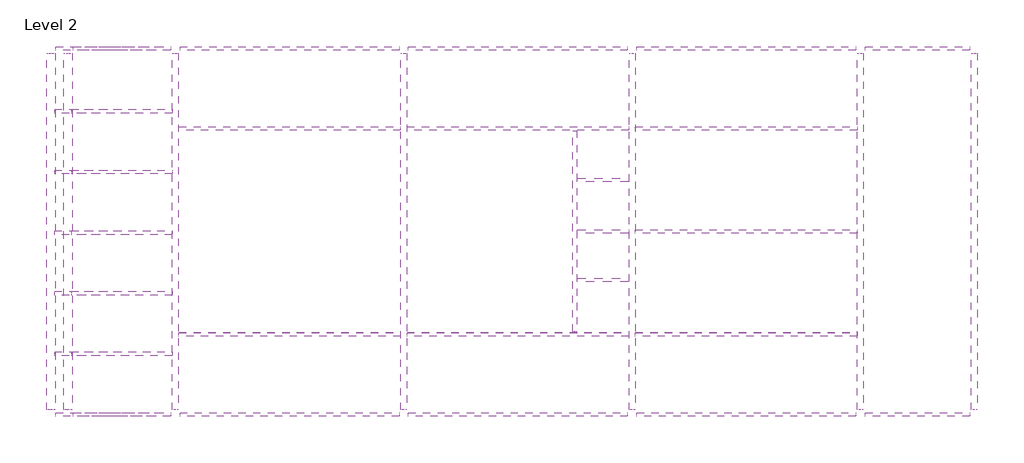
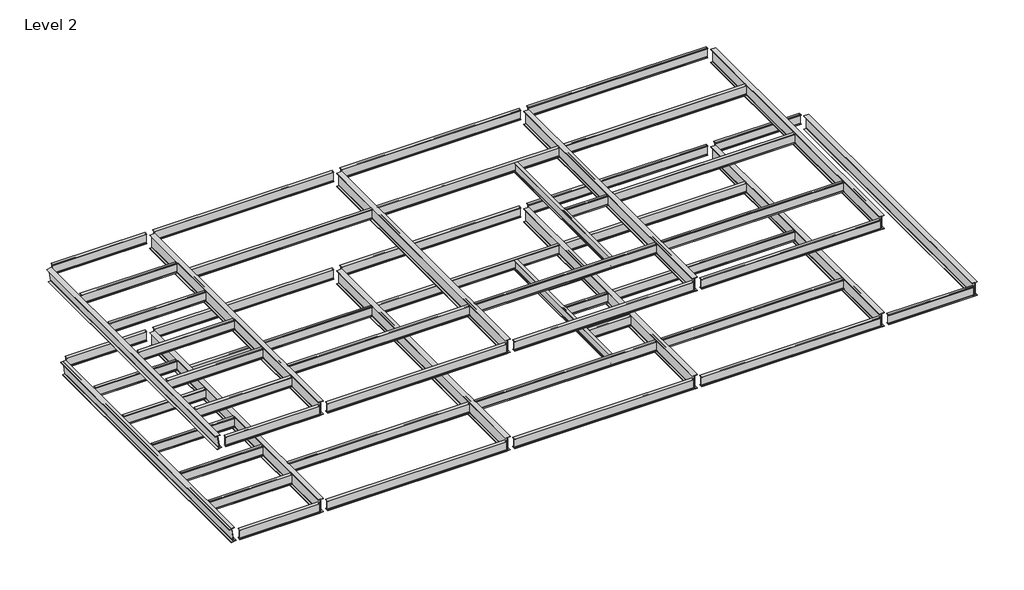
# One storey: 59 beams.
"""IFC4 building model written with IfcOpenShell, lengths in millimetres."""

from ifc_helpers import new_model, si_unit, origin, place, context, project, spatial, transform, mapped, element, save
from components import w_shapes_w21x57_78d4a217, w_shapes_w21x57_31511be1, w_shapes_w21x57_3eaecdaa, w_shapes_w21x57_65fae525, w_shapes_w21x57_e88e118e, w_shapes_w21x57_af6b2263, w_shapes_w21x57_8ccef679, w_shapes_w21x57_f1182905, w_shapes_w21x57_da67b83a, w_shapes_w21x57_1251f8e0, w_shapes_w21x57_95897375, w_shapes_w21x57_72440131, w_shapes_w21x57_cef2d52b, w_shapes_w30x124_fc9c46ff, w_shapes_w30x124_addc17b6

model = new_model("IFC4")

# Units and contexts
model_context = context("Model", 3, world=origin())
ifc_project = project(units=[si_unit("LENGTHUNIT", "METRE", prefix="MILLI")], contexts=[model_context])

# Site, building, storey
site = spatial("IfcSite", under=ifc_project)
building = spatial("IfcBuilding", under=site)
storey = spatial("IfcBuildingStorey", under=building, Name="Level 2", Elevation=3000.0)

# Beams
placement = place(None, origin())
w_shapes_w21x57_shape = w_shapes_w21x57_78d4a217(model_context)
element("IfcBeam", 1, ObjectType="W Shapes : W21X57", at=placement, inside=storey, context=model_context, shape_type="MappedRepresentation", body=[
    mapped(w_shapes_w21x57_shape, transform((4197.5, -9335.0, 5232.03), x_axis=(1.0, 0.0, 0.0), y_axis=(0.0, 1.0, 0.0), z_axis=(0.0, 0.0, 1.0))),
])
element("IfcBeam", 2, ObjectType="W Shapes : W21X57", at=placement, inside=storey, context=model_context, shape_type="MappedRepresentation", body=[
    mapped(w_shapes_w21x57_shape, transform((4197.5, -6685.0, 5232.03), x_axis=(1.0, 0.0, 0.0), y_axis=(0.0, 1.0, 0.0), z_axis=(0.0, 0.0, 1.0))),
])
element("IfcBeam", 3, ObjectType="W Shapes : W21X57", at=placement, inside=storey, context=model_context, shape_type="MappedRepresentation", body=[
    mapped(w_shapes_w21x57_shape, transform((4197.5, -4035.0, 5232.03), x_axis=(1.0, 0.0, 0.0), y_axis=(0.0, 1.0, 0.0), z_axis=(0.0, 0.0, 1.0))),
])
element("IfcBeam", 4, ObjectType="W Shapes : W21X57", at=placement, inside=storey, context=model_context, shape_type="MappedRepresentation", body=[
    mapped(w_shapes_w21x57_shape, transform((4197.5, -1385.0, 5232.03), x_axis=(1.0, 0.0, 0.0), y_axis=(0.0, 1.0, 0.0), z_axis=(0.0, 0.0, 1.0))),
])
element("IfcBeam", 5, ObjectType="W Shapes : W21X57", at=placement, inside=storey, context=model_context, shape_type="MappedRepresentation", body=[
    mapped(w_shapes_w21x57_shape, transform((4197.5, -11985.0, 5232.03), x_axis=(1.0, 0.0, 0.0), y_axis=(0.0, 1.0, 0.0), z_axis=(0.0, 0.0, 1.0))),
])
w_shapes_w21x57_2_shape = w_shapes_w21x57_31511be1(model_context)
element("IfcBeam", 6, ObjectType="W Shapes : W21X57", at=placement, inside=storey, context=model_context, shape_type="MappedRepresentation", body=[
    mapped(w_shapes_w21x57_2_shape, transform((24099.4, -6572.5, 10732.03), x_axis=(0.0, -1.0, 0.0), y_axis=(1.0, 0.0, 0.0), z_axis=(0.0, 0.0, 1.0))),
])
element("IfcBeam", 7, ObjectType="W Shapes : W21X57", at=placement, inside=storey, context=model_context, shape_type="MappedRepresentation", body=[
    mapped(w_shapes_w21x57_2_shape, transform((24099.4, -6572.5, 5232.03), x_axis=(0.0, -1.0, 0.0), y_axis=(1.0, 0.0, 0.0), z_axis=(0.0, 0.0, 1.0))),
])
w_shapes_w21x57_3_shape = w_shapes_w21x57_3eaecdaa(model_context)
element("IfcBeam", 8, ObjectType="W Shapes : W21X57", at=placement, inside=storey, context=model_context, shape_type="MappedRepresentation", body=[
    mapped(w_shapes_w21x57_3_shape, transform((31590.5, -11135.0, 5232.03), x_axis=(-1.0, 0.0, 0.0), y_axis=(0.0, -1.0, 0.0), z_axis=(0.0, 0.0, 1.0))),
])
element("IfcBeam", 9, ObjectType="W Shapes : W21X57", at=placement, inside=storey, context=model_context, shape_type="MappedRepresentation", body=[
    mapped(w_shapes_w21x57_3_shape, transform((21608.3, -11135.0, 5232.03), x_axis=(-1.0, 0.0, 0.0), y_axis=(0.0, -1.0, 0.0), z_axis=(0.0, 0.0, 1.0))),
])
element("IfcBeam", 10, ObjectType="W Shapes : W21X57", at=placement, inside=storey, context=model_context, shape_type="MappedRepresentation", body=[
    mapped(w_shapes_w21x57_3_shape, transform((31590.5, -2135.0, 5232.03), x_axis=(-1.0, 0.0, 0.0), y_axis=(0.0, -1.0, 0.0), z_axis=(0.0, 0.0, 1.0))),
])
element("IfcBeam", 11, ObjectType="W Shapes : W21X57", at=placement, inside=storey, context=model_context, shape_type="MappedRepresentation", body=[
    mapped(w_shapes_w21x57_3_shape, transform((21608.3, -2135.0, 5232.03), x_axis=(-1.0, 0.0, 0.0), y_axis=(0.0, -1.0, 0.0), z_axis=(0.0, 0.0, 1.0))),
])
element("IfcBeam", 12, ObjectType="W Shapes : W21X57", at=placement, inside=storey, context=model_context, shape_type="MappedRepresentation", body=[
    mapped(w_shapes_w21x57_3_shape, transform((31590.5, -2135.0, 10732.03), x_axis=(-1.0, 0.0, 0.0), y_axis=(0.0, -1.0, 0.0), z_axis=(0.0, 0.0, 1.0))),
])
element("IfcBeam", 13, ObjectType="W Shapes : W21X57", at=placement, inside=storey, context=model_context, shape_type="MappedRepresentation", body=[
    mapped(w_shapes_w21x57_3_shape, transform((21608.3, -2135.0, 10732.03), x_axis=(-1.0, 0.0, 0.0), y_axis=(0.0, -1.0, 0.0), z_axis=(0.0, 0.0, 1.0))),
])
element("IfcBeam", 14, ObjectType="W Shapes : W21X57", at=placement, inside=storey, context=model_context, shape_type="MappedRepresentation", body=[
    mapped(w_shapes_w21x57_3_shape, transform((31590.5, -11135.0, 10732.03), x_axis=(-1.0, 0.0, 0.0), y_axis=(0.0, -1.0, 0.0), z_axis=(0.0, 0.0, 1.0))),
])
element("IfcBeam", 15, ObjectType="W Shapes : W21X57", at=placement, inside=storey, context=model_context, shape_type="MappedRepresentation", body=[
    mapped(w_shapes_w21x57_3_shape, transform((21608.3, -11135.0, 10732.03), x_axis=(-1.0, 0.0, 0.0), y_axis=(0.0, -1.0, 0.0), z_axis=(0.0, 0.0, 1.0))),
])
w_shapes_w21x57_4_shape = w_shapes_w21x57_65fae525(model_context)
element("IfcBeam", 16, ObjectType="W Shapes : W21X57", at=placement, inside=storey, context=model_context, shape_type="MappedRepresentation", body=[
    mapped(w_shapes_w21x57_4_shape, transform((25286.9, -4385.0, 5232.03), x_axis=(1.0, 0.0, 0.0), y_axis=(0.0, 1.0, 0.0), z_axis=(0.0, 0.0, 1.0))),
])
element("IfcBeam", 17, ObjectType="W Shapes : W21X57", at=placement, inside=storey, context=model_context, shape_type="MappedRepresentation", body=[
    mapped(w_shapes_w21x57_4_shape, transform((25286.9, -8760.0, 5232.03), x_axis=(1.0, 0.0, 0.0), y_axis=(0.0, 1.0, 0.0), z_axis=(0.0, 0.0, 1.0))),
])
w_shapes_w21x57_5_shape = w_shapes_w21x57_e88e118e(model_context)
element("IfcBeam", 18, ObjectType="W Shapes : W21X57", at=placement, inside=storey, context=model_context, shape_type="MappedRepresentation", body=[
    mapped(w_shapes_w21x57_5_shape, transform((3822.5, -11985.0, 10732.03), x_axis=(1.0, 0.0, 0.0), y_axis=(0.0, 1.0, 0.0), z_axis=(0.0, 0.0, 1.0))),
])
element("IfcBeam", 19, ObjectType="W Shapes : W21X57", at=placement, inside=storey, context=model_context, shape_type="MappedRepresentation", body=[
    mapped(w_shapes_w21x57_5_shape, transform((3822.5, -9335.0, 10732.03), x_axis=(1.0, 0.0, 0.0), y_axis=(0.0, 1.0, 0.0), z_axis=(0.0, 0.0, 1.0))),
])
element("IfcBeam", 20, ObjectType="W Shapes : W21X57", at=placement, inside=storey, context=model_context, shape_type="MappedRepresentation", body=[
    mapped(w_shapes_w21x57_5_shape, transform((3822.5, -6685.0, 10732.03), x_axis=(1.0, 0.0, 0.0), y_axis=(0.0, 1.0, 0.0), z_axis=(0.0, 0.0, 1.0))),
])
element("IfcBeam", 21, ObjectType="W Shapes : W21X57", at=placement, inside=storey, context=model_context, shape_type="MappedRepresentation", body=[
    mapped(w_shapes_w21x57_5_shape, transform((3822.5, -4035.0, 10732.03), x_axis=(1.0, 0.0, 0.0), y_axis=(0.0, 1.0, 0.0), z_axis=(0.0, 0.0, 1.0))),
])
element("IfcBeam", 22, ObjectType="W Shapes : W21X57", at=placement, inside=storey, context=model_context, shape_type="MappedRepresentation", body=[
    mapped(w_shapes_w21x57_5_shape, transform((3822.5, -1385.0, 10732.03), x_axis=(1.0, 0.0, 0.0), y_axis=(0.0, 1.0, 0.0), z_axis=(0.0, 0.0, 1.0))),
])
w_shapes_w21x57_6_shape = w_shapes_w21x57_af6b2263(model_context)
element("IfcBeam", 23, ObjectType="W Shapes : W21X57", at=placement, inside=storey, context=model_context, shape_type="MappedRepresentation", body=[
    mapped(w_shapes_w21x57_6_shape, transform((11688.6, -11135.0, 5232.03), x_axis=(-1.0, 0.0, 0.0), y_axis=(0.0, -1.0, 0.0), z_axis=(0.0, 0.0, 1.0))),
])
element("IfcBeam", 24, ObjectType="W Shapes : W21X57", at=placement, inside=storey, context=model_context, shape_type="MappedRepresentation", body=[
    mapped(w_shapes_w21x57_6_shape, transform((11688.6, -2135.0, 5232.03), x_axis=(-1.0, 0.0, 0.0), y_axis=(0.0, -1.0, 0.0), z_axis=(0.0, 0.0, 1.0))),
])
element("IfcBeam", 25, ObjectType="W Shapes : W21X57", at=placement, inside=storey, context=model_context, shape_type="MappedRepresentation", body=[
    mapped(w_shapes_w21x57_6_shape, transform((11688.6, -2135.0, 10732.03), x_axis=(-1.0, 0.0, 0.0), y_axis=(0.0, -1.0, 0.0), z_axis=(0.0, 0.0, 1.0))),
])
element("IfcBeam", 26, ObjectType="W Shapes : W21X57", at=placement, inside=storey, context=model_context, shape_type="MappedRepresentation", body=[
    mapped(w_shapes_w21x57_6_shape, transform((11688.6, -11135.0, 10732.03), x_axis=(-1.0, 0.0, 0.0), y_axis=(0.0, -1.0, 0.0), z_axis=(0.0, 0.0, 1.0))),
])
element("IfcBeam", 27, ObjectType="W Shapes : W21X57", at=placement, inside=storey, context=model_context, shape_type="MappedRepresentation", body=[
    mapped(w_shapes_w21x57_6_shape, transform((31528.0, -6635.0, 10732.03), x_axis=(1.0, 0.0, 0.0), y_axis=(0.0, 1.0, 0.0), z_axis=(0.0, 0.0, 1.0))),
])
element("IfcBeam", 28, ObjectType="W Shapes : W21X57", at=placement, inside=storey, context=model_context, shape_type="MappedRepresentation", body=[
    mapped(w_shapes_w21x57_6_shape, transform((31528.0, -6635.0, 5232.03), x_axis=(1.0, 0.0, 0.0), y_axis=(0.0, 1.0, 0.0), z_axis=(0.0, 0.0, 1.0))),
])
w_shapes_w21x57_7_shape = w_shapes_w21x57_8ccef679(model_context)
element("IfcBeam", 29, ObjectType="W Shapes : W21X57", at=placement, inside=storey, context=model_context, shape_type="MappedRepresentation", body=[
    mapped(w_shapes_w21x57_7_shape, transform((25349.4, -6635.0, 10732.03), x_axis=(1.0, 0.0, 0.0), y_axis=(0.0, 1.0, 0.0), z_axis=(0.0, 0.0, 1.0))),
])
element("IfcBeam", 30, ObjectType="W Shapes : W21X57", at=placement, inside=storey, context=model_context, shape_type="MappedRepresentation", body=[
    mapped(w_shapes_w21x57_7_shape, transform((25349.4, -6635.0, 5232.03), x_axis=(1.0, 0.0, 0.0), y_axis=(0.0, 1.0, 0.0), z_axis=(0.0, 0.0, 1.0))),
])
w_shapes_w21x57_8_shape = w_shapes_w21x57_f1182905(model_context)
element("IfcBeam", 31, ObjectType="W Shapes : W21X57", at=placement, inside=storey, context=model_context, shape_type="MappedRepresentation", body=[
    mapped(w_shapes_w21x57_8_shape, transform((39072.7, -14635.0, 5232.03), x_axis=(-1.0, 0.0, 0.0), y_axis=(0.0, -1.0, 0.0), z_axis=(0.0, 0.0, 1.0))),
])
element("IfcBeam", 32, ObjectType="W Shapes : W21X57", at=placement, inside=storey, context=model_context, shape_type="MappedRepresentation", body=[
    mapped(w_shapes_w21x57_8_shape, transform((39072.7, 1365.0, 5232.03), x_axis=(1.0, 0.0, 0.0), y_axis=(0.0, 1.0, 0.0), z_axis=(0.0, 0.0, 1.0))),
])
w_shapes_w21x57_9_shape = w_shapes_w21x57_da67b83a(model_context)
element("IfcBeam", 33, ObjectType="W Shapes : W21X57", at=placement, inside=storey, context=model_context, shape_type="MappedRepresentation", body=[
    mapped(w_shapes_w21x57_9_shape, transform((21608.3, -14635.0, 5232.03), x_axis=(-1.0, 0.0, 0.0), y_axis=(0.0, -1.0, 0.0), z_axis=(0.0, 0.0, 1.0))),
])
element("IfcBeam", 34, ObjectType="W Shapes : W21X57", at=placement, inside=storey, context=model_context, shape_type="MappedRepresentation", body=[
    mapped(w_shapes_w21x57_9_shape, transform((11626.1, -14635.0, 5232.03), x_axis=(-1.0, 0.0, 0.0), y_axis=(0.0, -1.0, 0.0), z_axis=(0.0, 0.0, 1.0))),
])
element("IfcBeam", 35, ObjectType="W Shapes : W21X57", at=placement, inside=storey, context=model_context, shape_type="MappedRepresentation", body=[
    mapped(w_shapes_w21x57_9_shape, transform((11626.1, 1365.0, 5232.03), x_axis=(1.0, 0.0, 0.0), y_axis=(0.0, 1.0, 0.0), z_axis=(0.0, 0.0, 1.0))),
])
element("IfcBeam", 36, ObjectType="W Shapes : W21X57", at=placement, inside=storey, context=model_context, shape_type="MappedRepresentation", body=[
    mapped(w_shapes_w21x57_9_shape, transform((21608.3, 1365.0, 5232.03), x_axis=(1.0, 0.0, 0.0), y_axis=(0.0, 1.0, 0.0), z_axis=(0.0, 0.0, 1.0))),
])
element("IfcBeam", 37, ObjectType="W Shapes : W21X57", at=placement, inside=storey, context=model_context, shape_type="MappedRepresentation", body=[
    mapped(w_shapes_w21x57_9_shape, transform((31590.5, 1365.0, 5232.03), x_axis=(1.0, 0.0, 0.0), y_axis=(0.0, 1.0, 0.0), z_axis=(0.0, 0.0, 1.0))),
])
element("IfcBeam", 38, ObjectType="W Shapes : W21X57", at=placement, inside=storey, context=model_context, shape_type="MappedRepresentation", body=[
    mapped(w_shapes_w21x57_9_shape, transform((31590.5, -14635.0, 10732.03), x_axis=(-1.0, 0.0, 0.0), y_axis=(0.0, -1.0, 0.0), z_axis=(0.0, 0.0, 1.0))),
])
element("IfcBeam", 39, ObjectType="W Shapes : W21X57", at=placement, inside=storey, context=model_context, shape_type="MappedRepresentation", body=[
    mapped(w_shapes_w21x57_9_shape, transform((21608.3, -14635.0, 10732.03), x_axis=(-1.0, 0.0, 0.0), y_axis=(0.0, -1.0, 0.0), z_axis=(0.0, 0.0, 1.0))),
])
element("IfcBeam", 40, ObjectType="W Shapes : W21X57", at=placement, inside=storey, context=model_context, shape_type="MappedRepresentation", body=[
    mapped(w_shapes_w21x57_9_shape, transform((11626.1, -14635.0, 10732.03), x_axis=(-1.0, 0.0, 0.0), y_axis=(0.0, -1.0, 0.0), z_axis=(0.0, 0.0, 1.0))),
])
element("IfcBeam", 41, ObjectType="W Shapes : W21X57", at=placement, inside=storey, context=model_context, shape_type="MappedRepresentation", body=[
    mapped(w_shapes_w21x57_9_shape, transform((11626.1, 1365.0, 10732.03), x_axis=(1.0, 0.0, 0.0), y_axis=(0.0, 1.0, 0.0), z_axis=(0.0, 0.0, 1.0))),
])
element("IfcBeam", 42, ObjectType="W Shapes : W21X57", at=placement, inside=storey, context=model_context, shape_type="MappedRepresentation", body=[
    mapped(w_shapes_w21x57_9_shape, transform((21608.3, 1365.0, 10732.03), x_axis=(1.0, 0.0, 0.0), y_axis=(0.0, 1.0, 0.0), z_axis=(0.0, 0.0, 1.0))),
])
element("IfcBeam", 43, ObjectType="W Shapes : W21X57", at=placement, inside=storey, context=model_context, shape_type="MappedRepresentation", body=[
    mapped(w_shapes_w21x57_9_shape, transform((31590.5, 1365.0, 10732.03), x_axis=(1.0, 0.0, 0.0), y_axis=(0.0, 1.0, 0.0), z_axis=(0.0, 0.0, 1.0))),
])
element("IfcBeam", 44, ObjectType="W Shapes : W21X57", at=placement, inside=storey, context=model_context, shape_type="MappedRepresentation", body=[
    mapped(w_shapes_w21x57_9_shape, transform((31590.5, -14635.0, 5232.03), x_axis=(-1.0, 0.0, 0.0), y_axis=(0.0, -1.0, 0.0), z_axis=(0.0, 0.0, 1.0))),
])
w_shapes_w21x57_10_shape = w_shapes_w21x57_1251f8e0(model_context)
element("IfcBeam", 45, ObjectType="W Shapes : W21X57", at=placement, inside=storey, context=model_context, shape_type="MappedRepresentation", body=[
    mapped(w_shapes_w21x57_10_shape, transform((4260.0, -14635.0, 5232.03), x_axis=(-1.0, 0.0, 0.0), y_axis=(0.0, -1.0, 0.0), z_axis=(0.0, 0.0, 1.0))),
])
w_shapes_w21x57_11_shape = w_shapes_w21x57_95897375(model_context)
element("IfcBeam", 46, ObjectType="W Shapes : W21X57", at=placement, inside=storey, context=model_context, shape_type="MappedRepresentation", body=[
    mapped(w_shapes_w21x57_11_shape, transform((4260.0, 1365.0, 5232.03), x_axis=(1.0, 0.0, 0.0), y_axis=(0.0, 1.0, 0.0), z_axis=(0.0, 0.0, 1.0))),
])
w_shapes_w21x57_12_shape = w_shapes_w21x57_72440131(model_context)
element("IfcBeam", 47, ObjectType="W Shapes : W21X57", at=placement, inside=storey, context=model_context, shape_type="MappedRepresentation", body=[
    mapped(w_shapes_w21x57_12_shape, transform((3885.0, -14635.0, 10732.03), x_axis=(-1.0, 0.0, 0.0), y_axis=(0.0, -1.0, 0.0), z_axis=(0.0, 0.0, 1.0))),
])
w_shapes_w21x57_13_shape = w_shapes_w21x57_cef2d52b(model_context)
element("IfcBeam", 48, ObjectType="W Shapes : W21X57", at=placement, inside=storey, context=model_context, shape_type="MappedRepresentation", body=[
    mapped(w_shapes_w21x57_13_shape, transform((3885.0, 1365.0, 10732.03), x_axis=(1.0, 0.0, 0.0), y_axis=(0.0, 1.0, 0.0), z_axis=(0.0, 0.0, 1.0))),
])
w_shapes_w30x124_shape = w_shapes_w30x124_fc9c46ff(model_context)
element("IfcBeam", 49, ObjectType="W Shapes : W30X124", at=placement, inside=storey, context=model_context, shape_type="MappedRepresentation", body=[
    mapped(w_shapes_w30x124_shape, transform((16617.2, -6635.0, 5116.46), x_axis=(0.0, 1.0, 0.0), y_axis=(-1.0, 0.0, 0.0), z_axis=(0.0, 0.0, 1.0))),
])
element("IfcBeam", 50, ObjectType="W Shapes : W30X124", at=placement, inside=storey, context=model_context, shape_type="MappedRepresentation", body=[
    mapped(w_shapes_w30x124_shape, transform((26599.4, -6635.0, 5116.46), x_axis=(0.0, 1.0, 0.0), y_axis=(-1.0, 0.0, 0.0), z_axis=(0.0, 0.0, 1.0))),
])
element("IfcBeam", 51, ObjectType="W Shapes : W30X124", at=placement, inside=storey, context=model_context, shape_type="MappedRepresentation", body=[
    mapped(w_shapes_w30x124_shape, transform((36581.6, -6635.0, 10616.46), x_axis=(0.0, -1.0, 0.0), y_axis=(1.0, 0.0, 0.0), z_axis=(0.0, 0.0, 1.0))),
])
element("IfcBeam", 52, ObjectType="W Shapes : W30X124", at=placement, inside=storey, context=model_context, shape_type="MappedRepresentation", body=[
    mapped(w_shapes_w30x124_shape, transform((6635.0, -6635.0, 10616.46), x_axis=(0.0, 1.0, 0.0), y_axis=(-1.0, 0.0, 0.0), z_axis=(0.0, 0.0, 1.0))),
])
element("IfcBeam", 53, ObjectType="W Shapes : W30X124", at=placement, inside=storey, context=model_context, shape_type="MappedRepresentation", body=[
    mapped(w_shapes_w30x124_shape, transform((16617.2, -6635.0, 10616.46), x_axis=(0.0, 1.0, 0.0), y_axis=(-1.0, 0.0, 0.0), z_axis=(0.0, 0.0, 1.0))),
])
element("IfcBeam", 54, ObjectType="W Shapes : W30X124", at=placement, inside=storey, context=model_context, shape_type="MappedRepresentation", body=[
    mapped(w_shapes_w30x124_shape, transform((26599.4, -6635.0, 10616.46), x_axis=(0.0, 1.0, 0.0), y_axis=(-1.0, 0.0, 0.0), z_axis=(0.0, 0.0, 1.0))),
])
element("IfcBeam", 55, ObjectType="W Shapes : W30X124", at=placement, inside=storey, context=model_context, shape_type="MappedRepresentation", body=[
    mapped(w_shapes_w30x124_shape, transform((41563.8, -6635.0, 5116.46), x_axis=(0.0, -1.0, 0.0), y_axis=(1.0, 0.0, 0.0), z_axis=(0.0, 0.0, 1.0))),
])
element("IfcBeam", 56, ObjectType="W Shapes : W30X124", at=placement, inside=storey, context=model_context, shape_type="MappedRepresentation", body=[
    mapped(w_shapes_w30x124_shape, transform((36581.6, -6635.0, 5116.46), x_axis=(0.0, -1.0, 0.0), y_axis=(1.0, 0.0, 0.0), z_axis=(0.0, 0.0, 1.0))),
])
element("IfcBeam", 57, ObjectType="W Shapes : W30X124", at=placement, inside=storey, context=model_context, shape_type="MappedRepresentation", body=[
    mapped(w_shapes_w30x124_shape, transform((6635.0, -6635.0, 5116.46), x_axis=(0.0, 1.0, 0.0), y_axis=(-1.0, 0.0, 0.0), z_axis=(0.0, 0.0, 1.0))),
])
w_shapes_w30x124_2_shape = w_shapes_w30x124_addc17b6(model_context)
element("IfcBeam", 58, ObjectType="W Shapes : W30X124", at=placement, inside=storey, context=model_context, shape_type="MappedRepresentation", body=[
    mapped(w_shapes_w30x124_2_shape, transform((1188.3684469, -6635.0, 10620.191179), x_axis=(0.0, 1.0000000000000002, 0.0), y_axis=(-0.9902717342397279, 0.0, -0.13914701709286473), z_axis=(-0.13914701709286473, 0.0, 0.9902717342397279))),
])
element("IfcBeam", 59, ObjectType="W Shapes : W30X124", at=placement, inside=storey, context=model_context, shape_type="MappedRepresentation", body=[
    mapped(w_shapes_w30x124_2_shape, transform((1938.3684469, -6635.0, 5120.191179), x_axis=(0.0, 1.0000000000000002, 0.0), y_axis=(-0.9902717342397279, 0.0, -0.13914701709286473), z_axis=(-0.13914701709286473, 0.0, 0.9902717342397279))),
])

save(model, "model.ifc")
